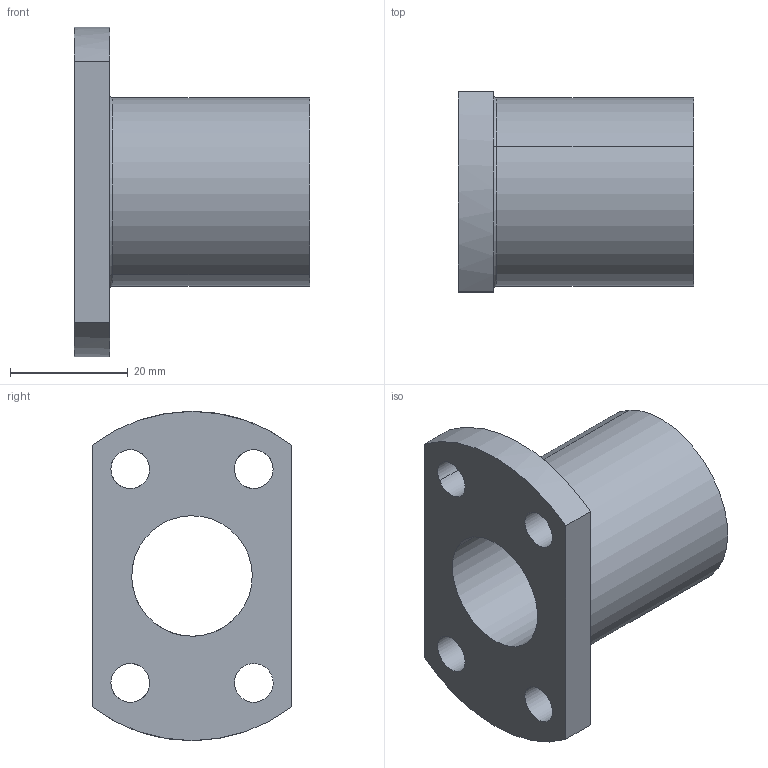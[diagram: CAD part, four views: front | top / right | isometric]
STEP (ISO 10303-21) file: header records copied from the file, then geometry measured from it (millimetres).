
FILE_DESCRIPTION(('CATIA V5 STEP Exchange'),'2;1');
FILE_NAME('C:\Users\aa\Documents\이댈\TM\ATM\ATM20.stp','2020-03-24T08:31:35+00:00',('none'),('none'),'CATIA Version 5 Release 20 SP 7 (IN-10)','CATIA V5 STEP AP203','none');
FILE_SCHEMA(('CONFIG_CONTROL_DESIGN'));
Length unit declared in the file: millimetre
Products named in the file (1): ATM20
Bounding box: 40 x 34 x 56 mm (x, y, z)
Volume: 24003.3 mm3; surface area: 10067.9 mm2
Topology: 1 solids, 1 shells, 21 faces, 52 edges, 34 vertices
Faces by surface type: cylinder 14, plane 5, torus 2
Entity records: 834 total; most frequent: CARTESIAN_POINT 292, ORIENTED_EDGE 104, DIRECTION 83, EDGE_CURVE 52, AXIS2_PLACEMENT_3D 43, VERTEX_POINT 34, EDGE_LOOP 32, ADVANCED_FACE 21
